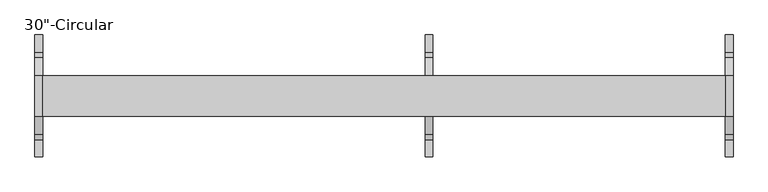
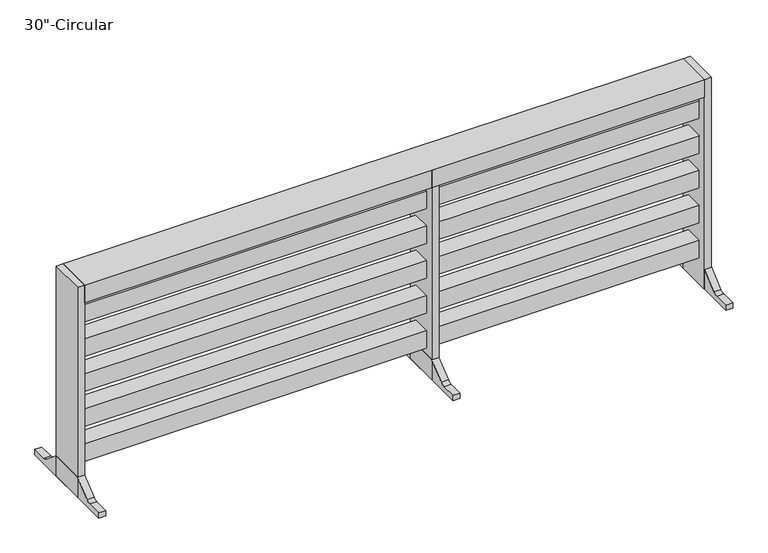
"""IFC4 building model written with IfcOpenShell, lengths in millimetres: proxy geometry."""

from ifc_helpers import new_model, si_unit, point, frame, frame_2d, origin, origin_with_axes, place, context, project, spatial, polyline, circle_curve, trimmed, segment, composite_curve, outline, extrude, source, transform, mapped, element, save


def proxy_3cf8789c(model_context):
    return source(origin(), model_context, "Body", "SweptSolid", [
        extrude(outline(polyline([(1150.8160461, 31.75), (1150.8160461, -31.75), (-982.7839539, -31.75), (-982.7839539, 31.75), (1150.8160461, 31.75)])), frame((0.0, 0.0, 603.25), z_axis=(0.0, 0.0, 1.0), x_axis=(1.0, 0.0, 0.0)), (0.0, 0.0, 1.0), 63.5),
        extrude(outline(polyline([(1150.8160461, 31.75), (1150.8160461, -31.75), (-982.7839539, -31.75), (-982.7839539, 31.75), (1150.8160461, 31.75)])), frame((0.0, 0.0, 476.25), z_axis=(0.0, 0.0, 1.0), x_axis=(1.0, 0.0, 0.0)), (0.0, 0.0, 1.0), 63.5),
        extrude(outline(polyline([(1150.8160461, 31.75), (1150.8160461, -31.75), (-982.7839539, -31.75), (-982.7839539, 31.75), (1150.8160461, 31.75)])), frame((0.0, 0.0, 349.25), z_axis=(0.0, 0.0, 1.0), x_axis=(1.0, 0.0, 0.0)), (0.0, 0.0, 1.0), 63.5),
        extrude(outline(polyline([(1150.8160461, 31.75), (1150.8160461, -31.75), (-982.7839539, -31.75), (-982.7839539, 31.75), (1150.8160461, 31.75)])), frame((0.0, 0.0, 222.25), z_axis=(0.0, 0.0, 1.0), x_axis=(1.0, 0.0, 0.0)), (0.0, 0.0, 1.0), 63.5),
        extrude(outline(polyline([(1150.8160461, 63.5), (1150.8160461, -63.5), (-982.7839539, -63.5), (-982.7839539, 63.5), (1150.8160461, 63.5)])), frame((0.0, 0.0, 698.5753852), z_axis=(0.0, 0.0, 1.0), x_axis=(1.0, 0.0, 0.0)), (0.0, 0.0, 1.0), 63.5459307),
        extrude(outline(polyline([(1150.8160461, 31.75), (1150.8160461, -31.75), (-982.7839539, -31.75), (-982.7839539, 31.75), (1150.8160461, 31.75)])), frame((0.0, 0.0, 95.25), z_axis=(0.0, 0.0, 1.0), x_axis=(1.0, 0.0, 0.0)), (0.0, 0.0, 1.0), 63.5),
        extrude(outline(polyline([(236.4160461, 63.5000001), (236.4160461, -63.5), (212.6035461, -63.5), (212.6035461, 63.5000001), (236.4160461, 63.5000001)])), origin_with_axes(), (0.0, 0.0, 1.0), 762.0),
        extrude(outline(composite_curve([segment(polyline([(-119.9542388, 24.9924709), (-61.9545362, 73.66), (63.5319367, 73.66), (121.5316394, 24.9924709)]), True, "CONTINUOUS"), segment(trimmed(circle_curve(frame_2d((137.8584447, 44.4499998)), 25.4), [point((121.5316394, 24.9924709))], [point((137.8584447, 19.0499998))], True, "CARTESIAN"), True, "CONTINUOUS"), segment(polyline([(137.8584447, 19.0499998), (191.2887003, 19.0499998), (191.2887003, 0.0), (-189.7112997, 0.0), (-189.7112997, 19.0499998), (-136.2810441, 19.0499998)]), True, "CONTINUOUS"), segment(trimmed(circle_curve(frame_2d((-136.2810441, 44.4499998)), 25.4), [point((-136.2810441, 19.0499998))], [point((-119.9542388, 24.9924709))], True, "CARTESIAN"), True, "CONTINUOUS")], self_intersect=False)), frame((212.6035461, 0.0, 0.0), z_axis=(1.0, 0.0, 0.0), x_axis=(0.0, 1.0, 0.0)), (0.0, 0.0, 1.0), 23.8125),
        extrude(outline(polyline([(236.4160461, 63.5000001), (236.4160461, -63.5), (212.6035461, -63.5), (212.6035461, 63.5000001), (236.4160461, 63.5000001)])), origin_with_axes(), (0.0, 0.0, 1.0), 762.0),
        extrude(outline(composite_curve([segment(polyline([(-119.9542388, 24.9924709), (-61.9545362, 73.66), (63.5319367, 73.66), (121.5316394, 24.9924709)]), True, "CONTINUOUS"), segment(trimmed(circle_curve(frame_2d((137.8584447, 44.4499998)), 25.4), [point((121.5316394, 24.9924709))], [point((137.8584447, 19.0499998))], True, "CARTESIAN"), True, "CONTINUOUS"), segment(polyline([(137.8584447, 19.0499998), (191.2887003, 19.0499998), (191.2887003, 0.0), (-189.7112997, 0.0), (-189.7112997, 19.0499998), (-136.2810441, 19.0499998)]), True, "CONTINUOUS"), segment(trimmed(circle_curve(frame_2d((-136.2810441, 44.4499998)), 25.4), [point((-136.2810441, 19.0499998))], [point((-119.9542388, 24.9924709))], True, "CARTESIAN"), True, "CONTINUOUS")], self_intersect=False)), frame((212.6035461, 0.0, 0.0), z_axis=(1.0, 0.0, 0.0), x_axis=(0.0, 1.0, 0.0)), (0.0, 0.0, 1.0), 23.8125),
        extrude(outline(polyline([(236.4160461, 63.5000001), (236.4160461, -63.5), (212.6035461, -63.5), (212.6035461, 63.5000001), (236.4160461, 63.5000001)])), origin_with_axes(), (0.0, 0.0, 1.0), 762.0),
        extrude(outline(composite_curve([segment(polyline([(-119.9542388, 24.9924709), (-61.9545362, 73.66), (63.5319367, 73.66), (121.5316394, 24.9924709)]), True, "CONTINUOUS"), segment(trimmed(circle_curve(frame_2d((137.8584447, 44.4499998)), 25.4), [point((121.5316394, 24.9924709))], [point((137.8584447, 19.0499998))], True, "CARTESIAN"), True, "CONTINUOUS"), segment(polyline([(137.8584447, 19.0499998), (191.2887003, 19.0499998), (191.2887003, 0.0), (-189.7112997, 0.0), (-189.7112997, 19.0499998), (-136.2810441, 19.0499998)]), True, "CONTINUOUS"), segment(trimmed(circle_curve(frame_2d((-136.2810441, 44.4499998)), 25.4), [point((-136.2810441, 19.0499998))], [point((-119.9542388, 24.9924709))], True, "CARTESIAN"), True, "CONTINUOUS")], self_intersect=False)), frame((212.6035461, 0.0, 0.0), z_axis=(1.0, 0.0, 0.0), x_axis=(0.0, 1.0, 0.0)), (0.0, 0.0, 1.0), 23.8125),
        extrude(outline(polyline([(236.4160461, 63.5000001), (236.4160461, -63.5), (212.6035461, -63.5), (212.6035461, 63.5000001), (236.4160461, 63.5000001)])), origin_with_axes(), (0.0, 0.0, 1.0), 762.0),
        extrude(outline(composite_curve([segment(polyline([(-119.9542388, 24.9924709), (-61.9545362, 73.66), (63.5319367, 73.66), (121.5316394, 24.9924709)]), True, "CONTINUOUS"), segment(trimmed(circle_curve(frame_2d((137.8584447, 44.4499998)), 25.4), [point((121.5316394, 24.9924709))], [point((137.8584447, 19.0499998))], True, "CARTESIAN"), True, "CONTINUOUS"), segment(polyline([(137.8584447, 19.0499998), (191.2887003, 19.0499998), (191.2887003, 0.0), (-189.7112997, 0.0), (-189.7112997, 19.0499998), (-136.2810441, 19.0499998)]), True, "CONTINUOUS"), segment(trimmed(circle_curve(frame_2d((-136.2810441, 44.4499998)), 25.4), [point((-136.2810441, 19.0499998))], [point((-119.9542388, 24.9924709))], True, "CARTESIAN"), True, "CONTINUOUS")], self_intersect=False)), frame((212.6035461, 0.0, 0.0), z_axis=(1.0, 0.0, 0.0), x_axis=(0.0, 1.0, 0.0)), (0.0, 0.0, 1.0), 23.8125),
        extrude(outline(polyline([(236.4160461, 63.5000001), (236.4160461, -63.5), (212.6035461, -63.5), (212.6035461, 63.5000001), (236.4160461, 63.5000001)])), origin_with_axes(), (0.0, 0.0, 1.0), 762.0),
        extrude(outline(composite_curve([segment(polyline([(-119.9542388, 24.9924709), (-61.9545362, 73.66), (63.5319367, 73.66), (121.5316394, 24.9924709)]), True, "CONTINUOUS"), segment(trimmed(circle_curve(frame_2d((137.8584447, 44.4499998)), 25.4), [point((121.5316394, 24.9924709))], [point((137.8584447, 19.0499998))], True, "CARTESIAN"), True, "CONTINUOUS"), segment(polyline([(137.8584447, 19.0499998), (191.2887003, 19.0499998), (191.2887003, 0.0), (-189.7112997, 0.0), (-189.7112997, 19.0499998), (-136.2810441, 19.0499998)]), True, "CONTINUOUS"), segment(trimmed(circle_curve(frame_2d((-136.2810441, 44.4499998)), 25.4), [point((-136.2810441, 19.0499998))], [point((-119.9542388, 24.9924709))], True, "CARTESIAN"), True, "CONTINUOUS")], self_intersect=False)), frame((212.6035461, 0.0, 0.0), z_axis=(1.0, 0.0, 0.0), x_axis=(0.0, 1.0, 0.0)), (0.0, 0.0, 1.0), 23.8125),
        extrude(outline(polyline([(236.4160461, 63.5000001), (236.4160461, -63.5), (212.6035461, -63.5), (212.6035461, 63.5000001), (236.4160461, 63.5000001)])), origin_with_axes(), (0.0, 0.0, 1.0), 762.0),
        extrude(outline(composite_curve([segment(polyline([(-119.9542388, 24.9924709), (-61.9545362, 73.66), (63.5319367, 73.66), (121.5316394, 24.9924709)]), True, "CONTINUOUS"), segment(trimmed(circle_curve(frame_2d((137.8584447, 44.4499998)), 25.4), [point((121.5316394, 24.9924709))], [point((137.8584447, 19.0499998))], True, "CARTESIAN"), True, "CONTINUOUS"), segment(polyline([(137.8584447, 19.0499998), (191.2887003, 19.0499998), (191.2887003, 0.0), (-189.7112997, 0.0), (-189.7112997, 19.0499998), (-136.2810441, 19.0499998)]), True, "CONTINUOUS"), segment(trimmed(circle_curve(frame_2d((-136.2810441, 44.4499998)), 25.4), [point((-136.2810441, 19.0499998))], [point((-119.9542388, 24.9924709))], True, "CARTESIAN"), True, "CONTINUOUS")], self_intersect=False)), frame((212.6035461, 0.0, 0.0), z_axis=(1.0, 0.0, 0.0), x_axis=(0.0, 1.0, 0.0)), (0.0, 0.0, 1.0), 23.8125),
        extrude(outline(polyline([(236.4160461, 63.5000001), (236.4160461, -63.5), (212.6035461, -63.5), (212.6035461, 63.5000001), (236.4160461, 63.5000001)])), origin_with_axes(), (0.0, 0.0, 1.0), 762.0),
        extrude(outline(composite_curve([segment(polyline([(-119.9542388, 24.9924709), (-61.9545362, 73.66), (63.5319367, 73.66), (121.5316394, 24.9924709)]), True, "CONTINUOUS"), segment(trimmed(circle_curve(frame_2d((137.8584447, 44.4499998)), 25.4), [point((121.5316394, 24.9924709))], [point((137.8584447, 19.0499998))], True, "CARTESIAN"), True, "CONTINUOUS"), segment(polyline([(137.8584447, 19.0499998), (191.2887003, 19.0499998), (191.2887003, 0.0), (-189.7112997, 0.0), (-189.7112997, 19.0499998), (-136.2810441, 19.0499998)]), True, "CONTINUOUS"), segment(trimmed(circle_curve(frame_2d((-136.2810441, 44.4499998)), 25.4), [point((-136.2810441, 19.0499998))], [point((-119.9542388, 24.9924709))], True, "CARTESIAN"), True, "CONTINUOUS")], self_intersect=False)), frame((212.6035461, 0.0, 0.0), z_axis=(1.0, 0.0, 0.0), x_axis=(0.0, 1.0, 0.0)), (0.0, 0.0, 1.0), 23.8125),
        extrude(outline(polyline([(236.4160461, 63.5000001), (236.4160461, -63.5), (212.6035461, -63.5), (212.6035461, 63.5000001), (236.4160461, 63.5000001)])), origin_with_axes(), (0.0, 0.0, 1.0), 762.0),
        extrude(outline(composite_curve([segment(polyline([(-119.9542388, 24.9924709), (-61.9545362, 73.66), (63.5319367, 73.66), (121.5316394, 24.9924709)]), True, "CONTINUOUS"), segment(trimmed(circle_curve(frame_2d((137.8584447, 44.4499998)), 25.4), [point((121.5316394, 24.9924709))], [point((137.8584447, 19.0499998))], True, "CARTESIAN"), True, "CONTINUOUS"), segment(polyline([(137.8584447, 19.0499998), (191.2887003, 19.0499998), (191.2887003, 0.0), (-189.7112997, 0.0), (-189.7112997, 19.0499998), (-136.2810441, 19.0499998)]), True, "CONTINUOUS"), segment(trimmed(circle_curve(frame_2d((-136.2810441, 44.4499998)), 25.4), [point((-136.2810441, 19.0499998))], [point((-119.9542388, 24.9924709))], True, "CARTESIAN"), True, "CONTINUOUS")], self_intersect=False)), frame((212.6035461, 0.0, 0.0), z_axis=(1.0, 0.0, 0.0), x_axis=(0.0, 1.0, 0.0)), (0.0, 0.0, 1.0), 23.8125),
        extrude(outline(polyline([(236.4160461, 63.5000001), (236.4160461, -63.5), (212.6035461, -63.5), (212.6035461, 63.5000001), (236.4160461, 63.5000001)])), origin_with_axes(), (0.0, 0.0, 1.0), 762.0),
        extrude(outline(composite_curve([segment(polyline([(-119.9542388, 24.9924709), (-61.9545362, 73.66), (63.5319367, 73.66), (121.5316394, 24.9924709)]), True, "CONTINUOUS"), segment(trimmed(circle_curve(frame_2d((137.8584447, 44.4499998)), 25.4), [point((121.5316394, 24.9924709))], [point((137.8584447, 19.0499998))], True, "CARTESIAN"), True, "CONTINUOUS"), segment(polyline([(137.8584447, 19.0499998), (191.2887003, 19.0499998), (191.2887003, 0.0), (-189.7112997, 0.0), (-189.7112997, 19.0499998), (-136.2810441, 19.0499998)]), True, "CONTINUOUS"), segment(trimmed(circle_curve(frame_2d((-136.2810441, 44.4499998)), 25.4), [point((-136.2810441, 19.0499998))], [point((-119.9542388, 24.9924709))], True, "CARTESIAN"), True, "CONTINUOUS")], self_intersect=False)), frame((212.6035461, 0.0, 0.0), z_axis=(1.0, 0.0, 0.0), x_axis=(0.0, 1.0, 0.0)), (0.0, 0.0, 1.0), 23.8125),
        extrude(outline(polyline([(236.4160461, 63.5000001), (236.4160461, -63.5), (212.6035461, -63.5), (212.6035461, 63.5000001), (236.4160461, 63.5000001)])), origin_with_axes(), (0.0, 0.0, 1.0), 762.0),
        extrude(outline(composite_curve([segment(polyline([(-119.9542388, 24.9924709), (-61.9545362, 73.66), (63.5319367, 73.66), (121.5316394, 24.9924709)]), True, "CONTINUOUS"), segment(trimmed(circle_curve(frame_2d((137.8584447, 44.4499998)), 25.4), [point((121.5316394, 24.9924709))], [point((137.8584447, 19.0499998))], True, "CARTESIAN"), True, "CONTINUOUS"), segment(polyline([(137.8584447, 19.0499998), (191.2887003, 19.0499998), (191.2887003, 0.0), (-189.7112997, 0.0), (-189.7112997, 19.0499998), (-136.2810441, 19.0499998)]), True, "CONTINUOUS"), segment(trimmed(circle_curve(frame_2d((-136.2810441, 44.4499998)), 25.4), [point((-136.2810441, 19.0499998))], [point((-119.9542388, 24.9924709))], True, "CARTESIAN"), True, "CONTINUOUS")], self_intersect=False)), frame((212.6035461, 0.0, 0.0), z_axis=(1.0, 0.0, 0.0), x_axis=(0.0, 1.0, 0.0)), (0.0, 0.0, 1.0), 23.8125),
        extrude(outline(polyline([(236.4160461, 63.5000001), (236.4160461, -63.5), (212.6035461, -63.5), (212.6035461, 63.5000001), (236.4160461, 63.5000001)])), origin_with_axes(), (0.0, 0.0, 1.0), 762.0),
        extrude(outline(composite_curve([segment(polyline([(-119.9542388, 24.9924709), (-61.9545362, 73.66), (63.5319367, 73.66), (121.5316394, 24.9924709)]), True, "CONTINUOUS"), segment(trimmed(circle_curve(frame_2d((137.8584447, 44.4499998)), 25.4), [point((121.5316394, 24.9924709))], [point((137.8584447, 19.0499998))], True, "CARTESIAN"), True, "CONTINUOUS"), segment(polyline([(137.8584447, 19.0499998), (191.2887003, 19.0499998), (191.2887003, 0.0), (-189.7112997, 0.0), (-189.7112997, 19.0499998), (-136.2810441, 19.0499998)]), True, "CONTINUOUS"), segment(trimmed(circle_curve(frame_2d((-136.2810441, 44.4499998)), 25.4), [point((-136.2810441, 19.0499998))], [point((-119.9542388, 24.9924709))], True, "CARTESIAN"), True, "CONTINUOUS")], self_intersect=False)), frame((212.6035461, 0.0, 0.0), z_axis=(1.0, 0.0, 0.0), x_axis=(0.0, 1.0, 0.0)), (0.0, 0.0, 1.0), 23.8125),
        extrude(outline(polyline([(236.4160461, 63.5000001), (236.4160461, -63.5), (212.6035461, -63.5), (212.6035461, 63.5000001), (236.4160461, 63.5000001)])), origin_with_axes(), (0.0, 0.0, 1.0), 762.0),
        extrude(outline(composite_curve([segment(polyline([(-119.9542388, 24.9924709), (-61.9545362, 73.66), (63.5319367, 73.66), (121.5316394, 24.9924709)]), True, "CONTINUOUS"), segment(trimmed(circle_curve(frame_2d((137.8584447, 44.4499998)), 25.4), [point((121.5316394, 24.9924709))], [point((137.8584447, 19.0499998))], True, "CARTESIAN"), True, "CONTINUOUS"), segment(polyline([(137.8584447, 19.0499998), (191.2887003, 19.0499998), (191.2887003, 0.0), (-189.7112997, 0.0), (-189.7112997, 19.0499998), (-136.2810441, 19.0499998)]), True, "CONTINUOUS"), segment(trimmed(circle_curve(frame_2d((-136.2810441, 44.4499998)), 25.4), [point((-136.2810441, 19.0499998))], [point((-119.9542388, 24.9924709))], True, "CARTESIAN"), True, "CONTINUOUS")], self_intersect=False)), frame((212.6035461, 0.0, 0.0), z_axis=(1.0, 0.0, 0.0), x_axis=(0.0, 1.0, 0.0)), (0.0, 0.0, 1.0), 23.8125),
        extrude(outline(polyline([(236.4160461, 63.5000001), (236.4160461, -63.5), (212.6035461, -63.5), (212.6035461, 63.5000001), (236.4160461, 63.5000001)])), origin_with_axes(), (0.0, 0.0, 1.0), 762.0),
        extrude(outline(composite_curve([segment(polyline([(-119.9542388, 24.9924709), (-61.9545362, 73.66), (63.5319367, 73.66), (121.5316394, 24.9924709)]), True, "CONTINUOUS"), segment(trimmed(circle_curve(frame_2d((137.8584447, 44.4499998)), 25.4), [point((121.5316394, 24.9924709))], [point((137.8584447, 19.0499998))], True, "CARTESIAN"), True, "CONTINUOUS"), segment(polyline([(137.8584447, 19.0499998), (191.2887003, 19.0499998), (191.2887003, 0.0), (-189.7112997, 0.0), (-189.7112997, 19.0499998), (-136.2810441, 19.0499998)]), True, "CONTINUOUS"), segment(trimmed(circle_curve(frame_2d((-136.2810441, 44.4499998)), 25.4), [point((-136.2810441, 19.0499998))], [point((-119.9542388, 24.9924709))], True, "CARTESIAN"), True, "CONTINUOUS")], self_intersect=False)), frame((212.6035461, 0.0, 0.0), z_axis=(1.0, 0.0, 0.0), x_axis=(0.0, 1.0, 0.0)), (0.0, 0.0, 1.0), 23.8125),
        extrude(outline(polyline([(236.4160461, 63.5000001), (236.4160461, -63.5), (212.6035461, -63.5), (212.6035461, 63.5000001), (236.4160461, 63.5000001)])), origin_with_axes(), (0.0, 0.0, 1.0), 762.0),
        extrude(outline(composite_curve([segment(polyline([(-119.9542388, 24.9924709), (-61.9545362, 73.66), (63.5319367, 73.66), (121.5316394, 24.9924709)]), True, "CONTINUOUS"), segment(trimmed(circle_curve(frame_2d((137.8584447, 44.4499998)), 25.4), [point((121.5316394, 24.9924709))], [point((137.8584447, 19.0499998))], True, "CARTESIAN"), True, "CONTINUOUS"), segment(polyline([(137.8584447, 19.0499998), (191.2887003, 19.0499998), (191.2887003, 0.0), (-189.7112997, 0.0), (-189.7112997, 19.0499998), (-136.2810441, 19.0499998)]), True, "CONTINUOUS"), segment(trimmed(circle_curve(frame_2d((-136.2810441, 44.4499998)), 25.4), [point((-136.2810441, 19.0499998))], [point((-119.9542388, 24.9924709))], True, "CARTESIAN"), True, "CONTINUOUS")], self_intersect=False)), frame((212.6035461, 0.0, 0.0), z_axis=(1.0, 0.0, 0.0), x_axis=(0.0, 1.0, 0.0)), (0.0, 0.0, 1.0), 23.8125),
        extrude(outline(polyline([(236.4160461, 63.5000001), (236.4160461, -63.5), (212.6035461, -63.5), (212.6035461, 63.5000001), (236.4160461, 63.5000001)])), origin_with_axes(), (0.0, 0.0, 1.0), 762.0),
        extrude(outline(composite_curve([segment(polyline([(-119.9542388, 24.9924709), (-61.9545362, 73.66), (63.5319367, 73.66), (121.5316394, 24.9924709)]), True, "CONTINUOUS"), segment(trimmed(circle_curve(frame_2d((137.8584447, 44.4499998)), 25.4), [point((121.5316394, 24.9924709))], [point((137.8584447, 19.0499998))], True, "CARTESIAN"), True, "CONTINUOUS"), segment(polyline([(137.8584447, 19.0499998), (191.2887003, 19.0499998), (191.2887003, 0.0), (-189.7112997, 0.0), (-189.7112997, 19.0499998), (-136.2810441, 19.0499998)]), True, "CONTINUOUS"), segment(trimmed(circle_curve(frame_2d((-136.2810441, 44.4499998)), 25.4), [point((-136.2810441, 19.0499998))], [point((-119.9542388, 24.9924709))], True, "CARTESIAN"), True, "CONTINUOUS")], self_intersect=False)), frame((212.6035461, 0.0, 0.0), z_axis=(1.0, 0.0, 0.0), x_axis=(0.0, 1.0, 0.0)), (0.0, 0.0, 1.0), 23.8125),
        extrude(outline(polyline([(236.4160461, 63.5000001), (236.4160461, -63.5), (212.6035461, -63.5), (212.6035461, 63.5000001), (236.4160461, 63.5000001)])), origin_with_axes(), (0.0, 0.0, 1.0), 762.0),
        extrude(outline(composite_curve([segment(polyline([(-119.9542388, 24.9924709), (-61.9545362, 73.66), (63.5319367, 73.66), (121.5316394, 24.9924709)]), True, "CONTINUOUS"), segment(trimmed(circle_curve(frame_2d((137.8584447, 44.4499998)), 25.4), [point((121.5316394, 24.9924709))], [point((137.8584447, 19.0499998))], True, "CARTESIAN"), True, "CONTINUOUS"), segment(polyline([(137.8584447, 19.0499998), (191.2887003, 19.0499998), (191.2887003, 0.0), (-189.7112997, 0.0), (-189.7112997, 19.0499998), (-136.2810441, 19.0499998)]), True, "CONTINUOUS"), segment(trimmed(circle_curve(frame_2d((-136.2810441, 44.4499998)), 25.4), [point((-136.2810441, 19.0499998))], [point((-119.9542388, 24.9924709))], True, "CARTESIAN"), True, "CONTINUOUS")], self_intersect=False)), frame((212.6035461, 0.0, 0.0), z_axis=(1.0, 0.0, 0.0), x_axis=(0.0, 1.0, 0.0)), (0.0, 0.0, 1.0), 23.8125),
        extrude(outline(polyline([(236.4160461, 63.5000001), (236.4160461, -63.5), (212.6035461, -63.5), (212.6035461, 63.5000001), (236.4160461, 63.5000001)])), origin_with_axes(), (0.0, 0.0, 1.0), 762.0),
        extrude(outline(composite_curve([segment(polyline([(-119.9542388, 24.9924709), (-61.9545362, 73.66), (63.5319367, 73.66), (121.5316394, 24.9924709)]), True, "CONTINUOUS"), segment(trimmed(circle_curve(frame_2d((137.8584447, 44.4499998)), 25.4), [point((121.5316394, 24.9924709))], [point((137.8584447, 19.0499998))], True, "CARTESIAN"), True, "CONTINUOUS"), segment(polyline([(137.8584447, 19.0499998), (191.2887003, 19.0499998), (191.2887003, 0.0), (-189.7112997, 0.0), (-189.7112997, 19.0499998), (-136.2810441, 19.0499998)]), True, "CONTINUOUS"), segment(trimmed(circle_curve(frame_2d((-136.2810441, 44.4499998)), 25.4), [point((-136.2810441, 19.0499998))], [point((-119.9542388, 24.9924709))], True, "CARTESIAN"), True, "CONTINUOUS")], self_intersect=False)), frame((212.6035461, 0.0, 0.0), z_axis=(1.0, 0.0, 0.0), x_axis=(0.0, 1.0, 0.0)), (0.0, 0.0, 1.0), 23.8125),
        extrude(outline(polyline([(236.4160461, 63.5000001), (236.4160461, -63.5), (212.6035461, -63.5), (212.6035461, 63.5000001), (236.4160461, 63.5000001)])), origin_with_axes(), (0.0, 0.0, 1.0), 762.0),
        extrude(outline(composite_curve([segment(polyline([(-119.9542388, 24.9924709), (-61.9545362, 73.66), (63.5319367, 73.66), (121.5316394, 24.9924709)]), True, "CONTINUOUS"), segment(trimmed(circle_curve(frame_2d((137.8584447, 44.4499998)), 25.4), [point((121.5316394, 24.9924709))], [point((137.8584447, 19.0499998))], True, "CARTESIAN"), True, "CONTINUOUS"), segment(polyline([(137.8584447, 19.0499998), (191.2887003, 19.0499998), (191.2887003, 0.0), (-189.7112997, 0.0), (-189.7112997, 19.0499998), (-136.2810441, 19.0499998)]), True, "CONTINUOUS"), segment(trimmed(circle_curve(frame_2d((-136.2810441, 44.4499998)), 25.4), [point((-136.2810441, 19.0499998))], [point((-119.9542388, 24.9924709))], True, "CARTESIAN"), True, "CONTINUOUS")], self_intersect=False)), frame((212.6035461, 0.0, 0.0), z_axis=(1.0, 0.0, 0.0), x_axis=(0.0, 1.0, 0.0)), (0.0, 0.0, 1.0), 23.8125),
        extrude(outline(polyline([(236.4160461, 63.5000001), (236.4160461, -63.5), (212.6035461, -63.5), (212.6035461, 63.5000001), (236.4160461, 63.5000001)])), origin_with_axes(), (0.0, 0.0, 1.0), 762.0),
        extrude(outline(composite_curve([segment(polyline([(-119.9542388, 24.9924709), (-61.9545362, 73.66), (63.5319367, 73.66), (121.5316394, 24.9924709)]), True, "CONTINUOUS"), segment(trimmed(circle_curve(frame_2d((137.8584447, 44.4499998)), 25.4), [point((121.5316394, 24.9924709))], [point((137.8584447, 19.0499998))], True, "CARTESIAN"), True, "CONTINUOUS"), segment(polyline([(137.8584447, 19.0499998), (191.2887003, 19.0499998), (191.2887003, 0.0), (-189.7112997, 0.0), (-189.7112997, 19.0499998), (-136.2810441, 19.0499998)]), True, "CONTINUOUS"), segment(trimmed(circle_curve(frame_2d((-136.2810441, 44.4499998)), 25.4), [point((-136.2810441, 19.0499998))], [point((-119.9542388, 24.9924709))], True, "CARTESIAN"), True, "CONTINUOUS")], self_intersect=False)), frame((212.6035461, 0.0, 0.0), z_axis=(1.0, 0.0, 0.0), x_axis=(0.0, 1.0, 0.0)), (0.0, 0.0, 1.0), 23.8125),
        extrude(outline(polyline([(236.4160461, 63.5000001), (236.4160461, -63.5), (212.6035461, -63.5), (212.6035461, 63.5000001), (236.4160461, 63.5000001)])), origin_with_axes(), (0.0, 0.0, 1.0), 762.0),
        extrude(outline(composite_curve([segment(polyline([(-119.9542388, 24.9924709), (-61.9545362, 73.66), (63.5319367, 73.66), (121.5316394, 24.9924709)]), True, "CONTINUOUS"), segment(trimmed(circle_curve(frame_2d((137.8584447, 44.4499998)), 25.4), [point((121.5316394, 24.9924709))], [point((137.8584447, 19.0499998))], True, "CARTESIAN"), True, "CONTINUOUS"), segment(polyline([(137.8584447, 19.0499998), (191.2887003, 19.0499998), (191.2887003, 0.0), (-189.7112997, 0.0), (-189.7112997, 19.0499998), (-136.2810441, 19.0499998)]), True, "CONTINUOUS"), segment(trimmed(circle_curve(frame_2d((-136.2810441, 44.4499998)), 25.4), [point((-136.2810441, 19.0499998))], [point((-119.9542388, 24.9924709))], True, "CARTESIAN"), True, "CONTINUOUS")], self_intersect=False)), frame((212.6035461, 0.0, 0.0), z_axis=(1.0, 0.0, 0.0), x_axis=(0.0, 1.0, 0.0)), (0.0, 0.0, 1.0), 23.8125),
        extrude(outline(polyline([(236.4160461, 63.5000001), (236.4160461, -63.5), (212.6035461, -63.5), (212.6035461, 63.5000001), (236.4160461, 63.5000001)])), origin_with_axes(), (0.0, 0.0, 1.0), 762.0),
        extrude(outline(composite_curve([segment(polyline([(-119.9542388, 24.9924709), (-61.9545362, 73.66), (63.5319367, 73.66), (121.5316394, 24.9924709)]), True, "CONTINUOUS"), segment(trimmed(circle_curve(frame_2d((137.8584447, 44.4499998)), 25.4), [point((121.5316394, 24.9924709))], [point((137.8584447, 19.0499998))], True, "CARTESIAN"), True, "CONTINUOUS"), segment(polyline([(137.8584447, 19.0499998), (191.2887003, 19.0499998), (191.2887003, 0.0), (-189.7112997, 0.0), (-189.7112997, 19.0499998), (-136.2810441, 19.0499998)]), True, "CONTINUOUS"), segment(trimmed(circle_curve(frame_2d((-136.2810441, 44.4499998)), 25.4), [point((-136.2810441, 19.0499998))], [point((-119.9542388, 24.9924709))], True, "CARTESIAN"), True, "CONTINUOUS")], self_intersect=False)), frame((212.6035461, 0.0, 0.0), z_axis=(1.0, 0.0, 0.0), x_axis=(0.0, 1.0, 0.0)), (0.0, 0.0, 1.0), 23.8125),
        extrude(outline(polyline([(1174.6285461, 63.5000001), (1174.6285461, -63.5), (1150.8160461, -63.5), (1150.8160461, 63.5000001), (1174.6285461, 63.5000001)])), origin_with_axes(), (0.0, 0.0, 1.0), 762.0),
        extrude(outline(composite_curve([segment(polyline([(-119.9542388, 24.9924709), (-61.9545362, 73.66), (63.5319367, 73.66), (121.5316394, 24.9924709)]), True, "CONTINUOUS"), segment(trimmed(circle_curve(frame_2d((137.8584447, 44.4499998)), 25.4), [point((121.5316394, 24.9924709))], [point((137.8584447, 19.0499998))], True, "CARTESIAN"), True, "CONTINUOUS"), segment(polyline([(137.8584447, 19.0499998), (191.2887003, 19.0499998), (191.2887003, 0.0), (-189.7112997, 0.0), (-189.7112997, 19.0499998), (-136.2810441, 19.0499998)]), True, "CONTINUOUS"), segment(trimmed(circle_curve(frame_2d((-136.2810441, 44.4499998)), 25.4), [point((-136.2810441, 19.0499998))], [point((-119.9542388, 24.9924709))], True, "CARTESIAN"), True, "CONTINUOUS")], self_intersect=False)), frame((1150.8160461, 0.0, 0.0), z_axis=(1.0, 0.0, 0.0), x_axis=(0.0, 1.0, 0.0)), (0.0, 0.0, 1.0), 23.8125),
        extrude(outline(polyline([(-982.7839539, 63.5000001), (-982.7839539, -63.5), (-1006.5964539, -63.5), (-1006.5964539, 63.5000001), (-982.7839539, 63.5000001)])), origin_with_axes(), (0.0, 0.0, 1.0), 762.0),
        extrude(outline(composite_curve([segment(polyline([(-119.9542388, 24.9924709), (-61.9545362, 73.66), (63.5319367, 73.66), (121.5316394, 24.9924709)]), True, "CONTINUOUS"), segment(trimmed(circle_curve(frame_2d((137.8584447, 44.4499998)), 25.4), [point((121.5316394, 24.9924709))], [point((137.8584447, 19.0499998))], True, "CARTESIAN"), True, "CONTINUOUS"), segment(polyline([(137.8584447, 19.0499998), (191.2887003, 19.0499998), (191.2887003, 0.0), (-189.7112997, 0.0), (-189.7112997, 19.0499998), (-136.2810441, 19.0499998)]), True, "CONTINUOUS"), segment(trimmed(circle_curve(frame_2d((-136.2810441, 44.4499998)), 25.4), [point((-136.2810441, 19.0499998))], [point((-119.9542388, 24.9924709))], True, "CARTESIAN"), True, "CONTINUOUS")], self_intersect=False)), frame((-1006.5964539, 0.0, 0.0), z_axis=(1.0, 0.0, 0.0), x_axis=(0.0, 1.0, 0.0)), (0.0, 0.0, 1.0), 23.8125),
    ])


if __name__ == "__main__":
    model = new_model("IFC4")
    model_context = context("Model", 3, world=origin())
    ifc_project = project(units=[si_unit("LENGTHUNIT", "METRE", prefix="MILLI")], contexts=[model_context])
    site = spatial("IfcSite", under=ifc_project)
    building = spatial("IfcBuilding", under=site)
    placement = place(None, origin())
    proxy_shape = proxy_3cf8789c(model_context)
    element("IfcBuildingElementProxy", 1, Name="Sunshade-Linear-Kawneer-Storefront-Square : 30\"-Circular", ObjectType="Sunshade-Linear-Kawneer-Storefront-Square : 30\"-Circular", at=placement, inside=building, context=model_context, shape_type="MappedRepresentation", body=[
        mapped(proxy_shape, transform((0.0, 0.0, 0.0), x_axis=(1.0, 0.0, 0.0), y_axis=(0.0, 1.0, 0.0), z_axis=(0.0, 0.0, 1.0))),
    ])
    save(model, "model.ifc")
